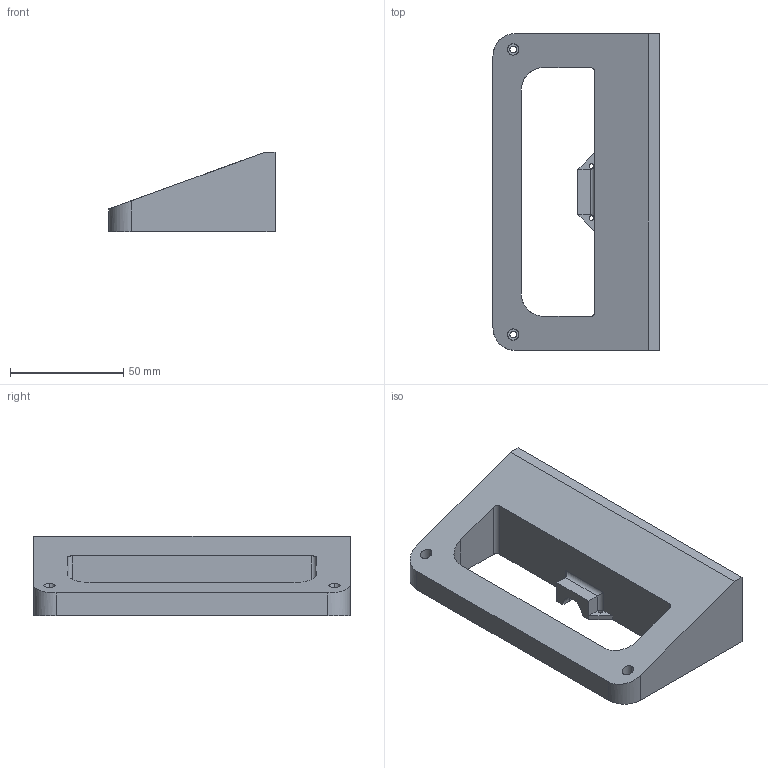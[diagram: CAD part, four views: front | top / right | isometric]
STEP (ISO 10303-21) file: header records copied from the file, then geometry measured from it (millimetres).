
FILE_DESCRIPTION (( 'STEP AP203' ), '1' );
FILE_NAME ('Topfront.STEP', '2016-05-26T15:02:46', ( '' ), ( '' ), 'SwSTEP 2.0', 'SolidWorks 2015', '' );
FILE_SCHEMA (( 'CONFIG_CONTROL_DESIGN' ));
Length unit declared in the file: millimetre
Products named in the file (1): Topfront
Bounding box: 73.39 x 140 x 35 mm (x, y, z)
Volume: 64214.1 mm3; surface area: 36043.4 mm2
Topology: 1 solids, 1 shells, 100 faces, 275 edges, 179 vertices
Faces by surface type: plane 59, cylinder 39, cone 2
Entity records: 3269 total; most frequent: CARTESIAN_POINT 621, ORIENTED_EDGE 550, DIRECTION 516, EDGE_CURVE 275, LINE 192, VECTOR 192, VERTEX_POINT 179, AXIS2_PLACEMENT_3D 162
